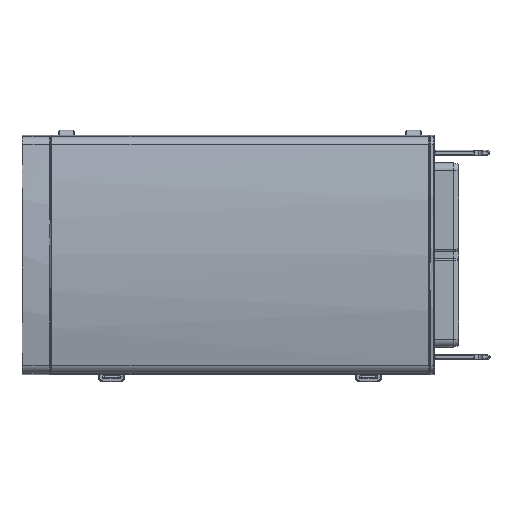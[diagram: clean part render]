
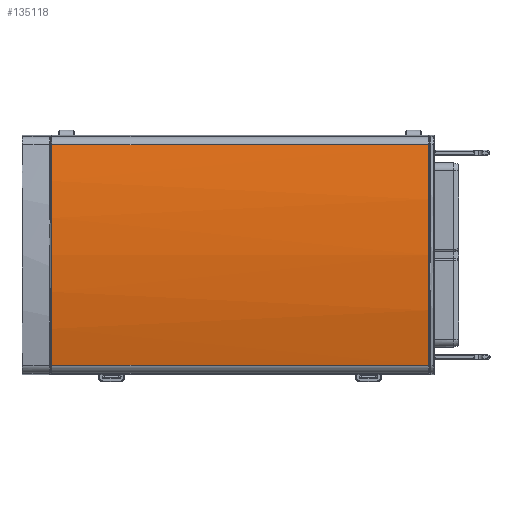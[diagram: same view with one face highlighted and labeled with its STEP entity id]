
A CAD part, top view. The second image highlights one B-rep face of the part: STEP entity #135118.
In plain terms, the highlighted cylindrical face has radius 200 mm (diameter 400 mm), a partial arc.
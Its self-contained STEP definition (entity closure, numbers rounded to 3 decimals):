
#3295 = VERTEX_POINT ( 'NONE', #42728 ) ;
#4456 = LINE ( 'NONE', #16445, #58333 ) ;
#7287 = CIRCLE ( 'NONE', #89502, 200. ) ;
#8053 = DIRECTION ( 'NONE',  ( -1., 0., 0. ) ) ;
#9854 = DIRECTION ( 'NONE',  ( 1., 0., 0. ) ) ;
#16445 = CARTESIAN_POINT ( 'NONE',  ( 10.41, -42.914, 24.092 ) ) ;
#16874 = ORIENTED_EDGE ( 'NONE', *, *, #48794, .T. ) ;
#23004 = CARTESIAN_POINT ( 'NONE',  ( 156.755, -42.914, 24.092 ) ) ;
#25739 = CARTESIAN_POINT ( 'NONE',  ( 10.41, 0., -171.25 ) ) ;
#28732 = DIRECTION ( 'NONE',  ( 1., 0., 0. ) ) ;
#37055 = AXIS2_PLACEMENT_3D ( 'NONE', #59309, #28732, #148398 ) ;
#40608 = CARTESIAN_POINT ( 'NONE',  ( 156.755, 0., -171.25 ) ) ;
#41094 = ORIENTED_EDGE ( 'NONE', *, *, #117804, .T. ) ;
#41444 = CARTESIAN_POINT ( 'NONE',  ( 10.41, 42.914, 24.092 ) ) ;
#42728 = CARTESIAN_POINT ( 'NONE',  ( 156.755, 42.914, 24.092 ) ) ;
#47980 = VERTEX_POINT ( 'NONE', #162466 ) ;
#48794 = EDGE_CURVE ( 'NONE', #162402, #165131, #177417, .T. ) ;
#54123 = AXIS2_PLACEMENT_3D ( 'NONE', #25739, #9854, #115674 ) ;
#54825 = DIRECTION ( 'NONE',  ( -1., 0., 0. ) ) ;
#56471 = CARTESIAN_POINT ( 'NONE',  ( 10.41, 42.914, 24.092 ) ) ;
#57351 = CYLINDRICAL_SURFACE ( 'NONE', #37055, 200. ) ;
#58333 = VECTOR ( 'NONE', #136164, 1000. ) ;
#58501 = ORIENTED_EDGE ( 'NONE', *, *, #74593, .T. ) ;
#59309 = CARTESIAN_POINT ( 'NONE',  ( 10.41, 0., -171.25 ) ) ;
#74593 = EDGE_CURVE ( 'NONE', #3295, #162402, #174461, .T. ) ;
#82503 = CARTESIAN_POINT ( 'NONE',  ( 156.755, 0., -171.25 ) ) ;
#89502 = AXIS2_PLACEMENT_3D ( 'NONE', #82503, #54825, #145851 ) ;
#95797 = VECTOR ( 'NONE', #8053, 1000. ) ;
#100008 = AXIS2_PLACEMENT_3D ( 'NONE', #40608, #138360, #167249 ) ;
#100567 = EDGE_CURVE ( 'NONE', #47980, #3295, #157034, .T. ) ;
#108328 = EDGE_LOOP ( 'NONE', ( #16874, #144379, #41094, #144443, #58501 ) ) ;
#115674 = DIRECTION ( 'NONE',  ( 0., 0., -1. ) ) ;
#117804 = EDGE_CURVE ( 'NONE', #151321, #47980, #7287, .T. ) ;
#125943 = EDGE_CURVE ( 'NONE', #165131, #151321, #4456, .T. ) ;
#135118 = ADVANCED_FACE ( 'NONE', ( #161298 ), #57351, .T. ) ;
#136164 = DIRECTION ( 'NONE',  ( 1., 0., 0. ) ) ;
#138360 = DIRECTION ( 'NONE',  ( -1., 0., 0. ) ) ;
#140070 = CARTESIAN_POINT ( 'NONE',  ( 10.41, -42.914, 24.092 ) ) ;
#144379 = ORIENTED_EDGE ( 'NONE', *, *, #125943, .T. ) ;
#144443 = ORIENTED_EDGE ( 'NONE', *, *, #100567, .T. ) ;
#145851 = DIRECTION ( 'NONE',  ( 0., 0., -1. ) ) ;
#148398 = DIRECTION ( 'NONE',  ( 0., 0., -1. ) ) ;
#151321 = VERTEX_POINT ( 'NONE', #23004 ) ;
#157034 = CIRCLE ( 'NONE', #100008, 200. ) ;
#161298 = FACE_OUTER_BOUND ( 'NONE', #108328, .T. ) ;
#162402 = VERTEX_POINT ( 'NONE', #41444 ) ;
#162466 = CARTESIAN_POINT ( 'NONE',  ( 156.755, 0., 28.75 ) ) ;
#165131 = VERTEX_POINT ( 'NONE', #140070 ) ;
#167249 = DIRECTION ( 'NONE',  ( 0., 0., -1. ) ) ;
#174461 = LINE ( 'NONE', #56471, #95797 ) ;
#177417 = CIRCLE ( 'NONE', #54123, 200. ) ;
